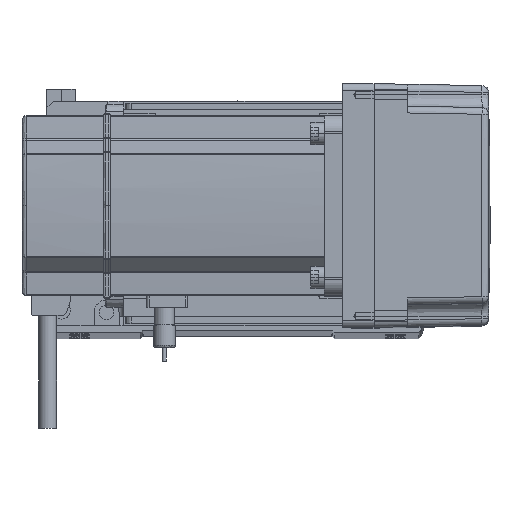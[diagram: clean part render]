
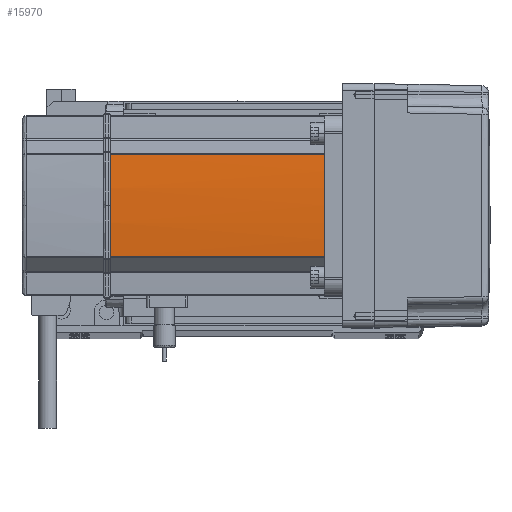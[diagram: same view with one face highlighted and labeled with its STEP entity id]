
A CAD part, top view. The second image highlights one B-rep face of the part: STEP entity #15970.
In plain terms, the highlighted cylindrical face has radius 270 mm (diameter 540 mm), a partial arc.
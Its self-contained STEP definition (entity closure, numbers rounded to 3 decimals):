
#429 = ORIENTED_EDGE ( 'NONE', *, *, #49502, .F. ) ;
#2577 = VERTEX_POINT ( 'NONE', #53939 ) ;
#3866 = VERTEX_POINT ( 'NONE', #43211 ) ;
#4508 = DIRECTION ( 'NONE',  ( 1., 0., 0. ) ) ;
#5647 = DIRECTION ( 'NONE',  ( 0., 0., 1. ) ) ;
#5751 = VECTOR ( 'NONE', #5647, 1000. ) ;
#6621 = CARTESIAN_POINT ( 'NONE',  ( -39.042, 22.724, 0. ) ) ;
#6824 = DIRECTION ( 'NONE',  ( 0., 0., -1. ) ) ;
#7878 = CARTESIAN_POINT ( 'NONE',  ( 230., 0., 0. ) ) ;
#10035 = CIRCLE ( 'NONE', #36883, 270. ) ;
#10884 = FACE_OUTER_BOUND ( 'NONE', #21686, .T. ) ;
#10978 = VERTEX_POINT ( 'NONE', #21935 ) ;
#11890 = DIRECTION ( 'NONE',  ( 0., 0., -1. ) ) ;
#12887 = AXIS2_PLACEMENT_3D ( 'NONE', #25718, #11890, #39779 ) ;
#13939 = CIRCLE ( 'NONE', #24108, 270. ) ;
#14951 = EDGE_CURVE ( 'NONE', #10978, #52918, #18294, .T. ) ;
#15970 = ADVANCED_FACE ( 'NONE', ( #10884 ), #23923, .T. ) ;
#18294 = CIRCLE ( 'NONE', #12887, 270. ) ;
#19096 = VECTOR ( 'NONE', #6824, 1000. ) ;
#19404 = DIRECTION ( 'NONE',  ( 1., 0., 0. ) ) ;
#21308 = EDGE_CURVE ( 'NONE', #52719, #10978, #13939, .T. ) ;
#21686 = EDGE_LOOP ( 'NONE', ( #34682, #38004, #30925, #429, #55623 ) ) ;
#21935 = CARTESIAN_POINT ( 'NONE',  ( -40., 0., 134. ) ) ;
#22039 = EDGE_CURVE ( 'NONE', #3866, #52719, #30475, .T. ) ;
#23923 = CYLINDRICAL_SURFACE ( 'NONE', #45350, 270. ) ;
#24108 = AXIS2_PLACEMENT_3D ( 'NONE', #27479, #60127, #4508 ) ;
#25718 = CARTESIAN_POINT ( 'NONE',  ( 230., 0., 134. ) ) ;
#26370 = LINE ( 'NONE', #6621, #19096 ) ;
#27479 = CARTESIAN_POINT ( 'NONE',  ( 230., 0., 134. ) ) ;
#29010 = CARTESIAN_POINT ( 'NONE',  ( -39.042, -22.724, 0. ) ) ;
#30475 = LINE ( 'NONE', #29010, #5751 ) ;
#30925 = ORIENTED_EDGE ( 'NONE', *, *, #52991, .T. ) ;
#34682 = ORIENTED_EDGE ( 'NONE', *, *, #21308, .T. ) ;
#35910 = DIRECTION ( 'NONE',  ( 0., 0., 1. ) ) ;
#36883 = AXIS2_PLACEMENT_3D ( 'NONE', #47688, #37885, #19404 ) ;
#37885 = DIRECTION ( 'NONE',  ( 0., 0., -1. ) ) ;
#38004 = ORIENTED_EDGE ( 'NONE', *, *, #14951, .T. ) ;
#39779 = DIRECTION ( 'NONE',  ( 1., 0., 0. ) ) ;
#43211 = CARTESIAN_POINT ( 'NONE',  ( -39.042, -22.724, 39. ) ) ;
#45350 = AXIS2_PLACEMENT_3D ( 'NONE', #7878, #35910, #54556 ) ;
#47688 = CARTESIAN_POINT ( 'NONE',  ( 230., 0., 39. ) ) ;
#49502 = EDGE_CURVE ( 'NONE', #3866, #2577, #10035, .T. ) ;
#51075 = CARTESIAN_POINT ( 'NONE',  ( -39.042, -22.724, 134. ) ) ;
#52501 = CARTESIAN_POINT ( 'NONE',  ( -39.042, 22.724, 134. ) ) ;
#52719 = VERTEX_POINT ( 'NONE', #51075 ) ;
#52918 = VERTEX_POINT ( 'NONE', #52501 ) ;
#52991 = EDGE_CURVE ( 'NONE', #52918, #2577, #26370, .T. ) ;
#53939 = CARTESIAN_POINT ( 'NONE',  ( -39.042, 22.724, 39. ) ) ;
#54556 = DIRECTION ( 'NONE',  ( 1., 0., 0. ) ) ;
#55623 = ORIENTED_EDGE ( 'NONE', *, *, #22039, .T. ) ;
#60127 = DIRECTION ( 'NONE',  ( 0., 0., -1. ) ) ;
